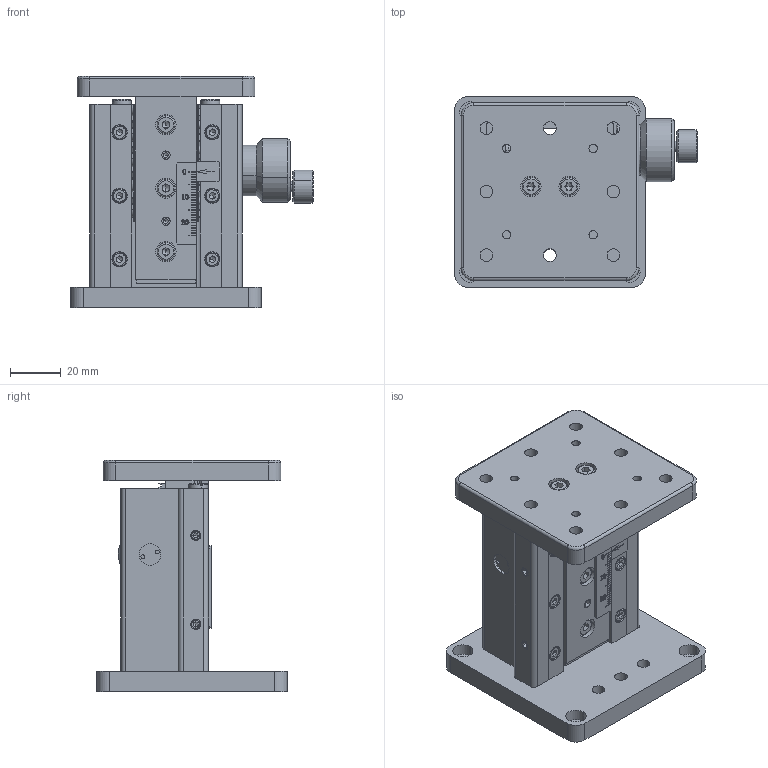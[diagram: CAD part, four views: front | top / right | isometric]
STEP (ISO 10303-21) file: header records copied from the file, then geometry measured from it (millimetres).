
FILE_DESCRIPTION (( 'STEP AP203' ), '1' );
FILE_NAME ('7SVM0725-0Éý½µÌ¨.STEP', '2019-11-20T05:51:20', ( '' ), ( '' ), 'SwSTEP 2.0', 'SolidWorks 2018', '' );
FILE_SCHEMA (( 'CONFIG_CONTROL_DESIGN' ));
Length unit declared in the file: millimetre
Products named in the file (1): 7SVM0725-0汔蔥怢
Bounding box: 95.5 x 75 x 91 mm (x, y, z)
Volume: 186071.1 mm3; surface area: 85847.7 mm2
Topology: 46 solids, 46 shells, 1772 faces, 4355 edges, 2734 vertices
Faces by surface type: plane 959, cylinder 525, cone 206, torus 42, bspline 40
Entity records: 53951 total; most frequent: CARTESIAN_POINT 11715, DIRECTION 8947, ORIENTED_EDGE 8510, EDGE_CURVE 4255, AXIS2_PLACEMENT_3D 3136, VERTEX_POINT 2734, LINE 2675, VECTOR 2675
